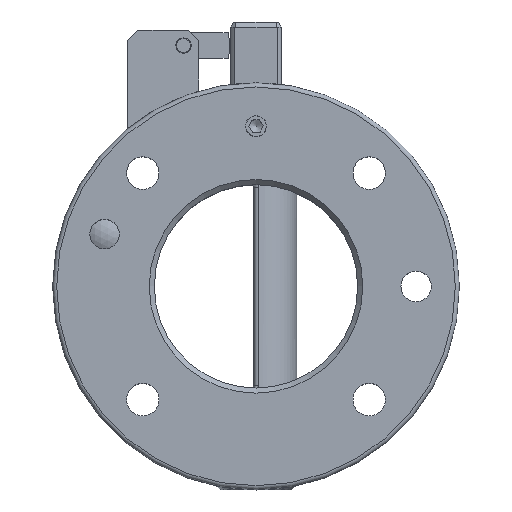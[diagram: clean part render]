
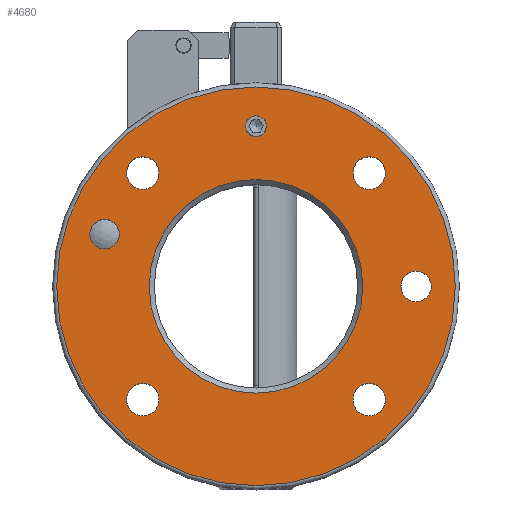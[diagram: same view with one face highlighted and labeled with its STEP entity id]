
A CAD part, top view. The second image highlights one B-rep face of the part: STEP entity #4680.
In plain terms, the highlighted planar face has unit normal (0, 0, 1).
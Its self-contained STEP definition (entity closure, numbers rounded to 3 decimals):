
#2634=CARTESIAN_POINT('',(2.067,31.5,0.0));
#2635=VERTEX_POINT('',#2634);
#2636=CARTESIAN_POINT('',(0.0,31.5,0.0));
#2637=DIRECTION('',(0.0,0.0,-1.0));
#2638=DIRECTION('',(1.0,0.0,0.0));
#2639=AXIS2_PLACEMENT_3D('',#2636,#2637,#2638);
#2640=CIRCLE('',#2639,2.067);
#2641=EDGE_CURVE('',#2635,#2635,#2640,.T.);
#4427=CARTESIAN_POINT('',(-26.884,10.255,0.0));
#4428=VERTEX_POINT('',#4427);
#4429=CARTESIAN_POINT('',(-29.784,10.255,0.0));
#4430=DIRECTION('',(0.0,0.0,-1.0));
#4431=DIRECTION('',(1.0,0.0,0.0));
#4432=AXIS2_PLACEMENT_3D('',#4429,#4430,#4431);
#4433=CIRCLE('',#4432,2.9);
#4434=EDGE_CURVE('',#4428,#4428,#4433,.T.);
#4585=CARTESIAN_POINT('',(39.2,0.,0.0));
#4586=VERTEX_POINT('',#4585);
#4587=CARTESIAN_POINT('',(0.0,0.0,0.0));
#4588=DIRECTION('',(0.0,0.0,-1.0));
#4589=DIRECTION('',(-1.0,0.0,0.0));
#4590=AXIS2_PLACEMENT_3D('',#4587,#4588,#4589);
#4591=CIRCLE('',#4590,39.2);
#4592=EDGE_CURVE('',#4586,#4586,#4591,.T.);
#4600=CARTESIAN_POINT('',(0.0,0.0,0.0));
#4601=DIRECTION('',(0.0,0.0,-1.0));
#4602=DIRECTION('',(-1.0,0.0,0.0));
#4603=AXIS2_PLACEMENT_3D('',#4600,#4601,#4602);
#4604=PLANE('',#4603);
#4605=ORIENTED_EDGE('',*,*,#4592,.F.);
#4606=EDGE_LOOP('',(#4605));
#4607=FACE_OUTER_BOUND('',#4606,.T.);
#4608=ORIENTED_EDGE('',*,*,#4434,.T.);
#4609=EDGE_LOOP('',(#4608));
#4610=FACE_BOUND('',#4609,.T.);
#4611=CARTESIAN_POINT('',(21.0,0.,0.0));
#4612=VERTEX_POINT('',#4611);
#4613=CARTESIAN_POINT('',(0.0,0.0,0.0));
#4614=DIRECTION('',(0.0,0.0,1.0));
#4615=DIRECTION('',(-1.0,0.0,0.0));
#4616=AXIS2_PLACEMENT_3D('',#4613,#4614,#4615);
#4617=CIRCLE('',#4616,21.0);
#4618=EDGE_CURVE('',#4612,#4612,#4617,.T.);
#4619=ORIENTED_EDGE('',*,*,#4618,.F.);
#4620=EDGE_LOOP('',(#4619));
#4621=FACE_BOUND('',#4620,.T.);
#4622=CARTESIAN_POINT('',(34.5,0.0,0.0));
#4623=VERTEX_POINT('',#4622);
#4624=CARTESIAN_POINT('',(31.5,0.0,0.0));
#4625=DIRECTION('',(0.0,0.0,-1.0));
#4626=DIRECTION('',(1.0,0.0,0.0));
#4627=AXIS2_PLACEMENT_3D('',#4624,#4625,#4626);
#4628=CIRCLE('',#4627,3.);
#4629=EDGE_CURVE('',#4623,#4623,#4628,.T.);
#4630=ORIENTED_EDGE('',*,*,#4629,.T.);
#4631=EDGE_LOOP('',(#4630));
#4632=FACE_BOUND('',#4631,.T.);
#4633=ORIENTED_EDGE('',*,*,#2641,.T.);
#4634=EDGE_LOOP('',(#4633));
#4635=FACE_BOUND('',#4634,.T.);
#4636=CARTESIAN_POINT('',(25.474,-22.274,0.0));
#4637=VERTEX_POINT('',#4636);
#4638=CARTESIAN_POINT('',(22.274,-22.274,0.0));
#4639=DIRECTION('',(0.0,0.0,-1.0));
#4640=DIRECTION('',(-1.0,0.0,0.0));
#4641=AXIS2_PLACEMENT_3D('',#4638,#4639,#4640);
#4642=CIRCLE('',#4641,3.2);
#4643=EDGE_CURVE('',#4637,#4637,#4642,.T.);
#4644=ORIENTED_EDGE('',*,*,#4643,.T.);
#4645=EDGE_LOOP('',(#4644));
#4646=FACE_BOUND('',#4645,.T.);
#4647=CARTESIAN_POINT('',(-19.074,-22.274,0.0));
#4648=VERTEX_POINT('',#4647);
#4649=CARTESIAN_POINT('',(-22.274,-22.274,0.0));
#4650=DIRECTION('',(0.0,0.0,-1.0));
#4651=DIRECTION('',(-1.0,0.0,0.0));
#4652=AXIS2_PLACEMENT_3D('',#4649,#4650,#4651);
#4653=CIRCLE('',#4652,3.2);
#4654=EDGE_CURVE('',#4648,#4648,#4653,.T.);
#4655=ORIENTED_EDGE('',*,*,#4654,.T.);
#4656=EDGE_LOOP('',(#4655));
#4657=FACE_BOUND('',#4656,.T.);
#4658=CARTESIAN_POINT('',(-19.074,22.274,0.0));
#4659=VERTEX_POINT('',#4658);
#4660=CARTESIAN_POINT('',(-22.274,22.274,0.0));
#4661=DIRECTION('',(0.0,0.0,-1.0));
#4662=DIRECTION('',(-1.0,0.0,0.0));
#4663=AXIS2_PLACEMENT_3D('',#4660,#4661,#4662);
#4664=CIRCLE('',#4663,3.2);
#4665=EDGE_CURVE('',#4659,#4659,#4664,.T.);
#4666=ORIENTED_EDGE('',*,*,#4665,.T.);
#4667=EDGE_LOOP('',(#4666));
#4668=FACE_BOUND('',#4667,.T.);
#4669=CARTESIAN_POINT('',(25.474,22.274,0.0));
#4670=VERTEX_POINT('',#4669);
#4671=CARTESIAN_POINT('',(22.274,22.274,0.0));
#4672=DIRECTION('',(0.0,0.0,-1.0));
#4673=DIRECTION('',(-1.0,0.0,0.0));
#4674=AXIS2_PLACEMENT_3D('',#4671,#4672,#4673);
#4675=CIRCLE('',#4674,3.2);
#4676=EDGE_CURVE('',#4670,#4670,#4675,.T.);
#4677=ORIENTED_EDGE('',*,*,#4676,.T.);
#4678=EDGE_LOOP('',(#4677));
#4679=FACE_BOUND('',#4678,.T.);
#4680=ADVANCED_FACE('',(#4607,#4610,#4621,#4632,#4635,#4646,#4657,#4668,#4679),#4604,.F.);
